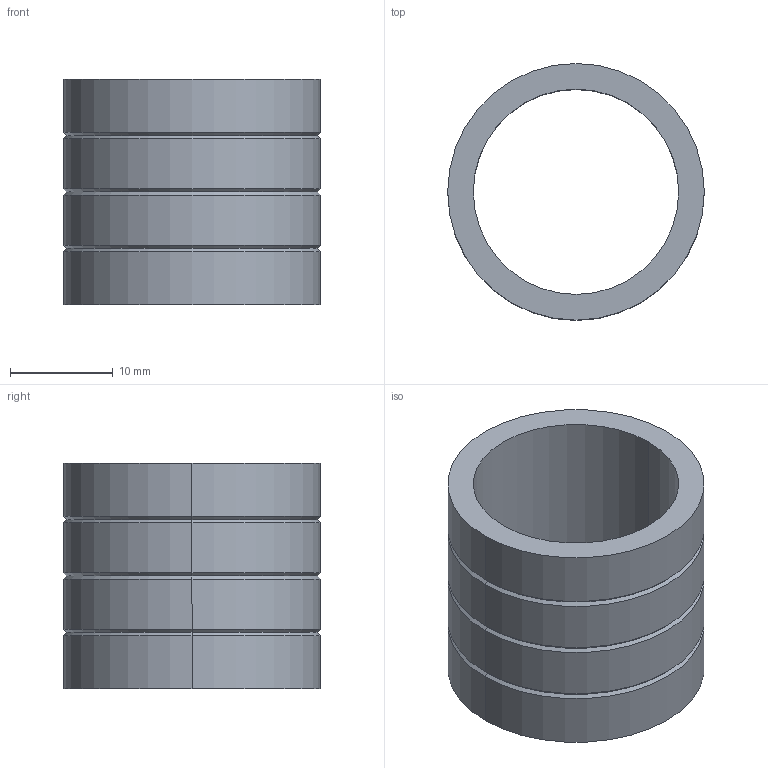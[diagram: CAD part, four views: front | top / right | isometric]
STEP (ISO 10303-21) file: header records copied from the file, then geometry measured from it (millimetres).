
FILE_DESCRIPTION(/* description */ (''),/* implementation_level */ '2;1');
FILE_NAME(/* name */ '3d_sgbl20-22_00008_r00.stp',/* time_stamp */ '2011-01-10T14:11:12+09:00',/* author */ ('MISUMI'),/* organization */ (''),/* preprocessor_version */ 'ST-DEVELOPER v11',/* originating_system */ 'UGS - NX 5.0',/* authorisation */ '');
FILE_SCHEMA (('CONFIG_CONTROL_DESIGN'));
Length unit declared in the file: millimetre
Products named in the file (1): 3d_sgbl20-22_00008_r00
Bounding box: 25 x 25 x 22 mm (x, y, z)
Volume: 3866.7 mm3; surface area: 3519.8 mm2
Topology: 1 solids, 1 shells, 24 faces, 48 edges, 26 vertices
Faces by surface type: cone 12, cylinder 10, plane 2
Entity records: 704 total; most frequent: DIRECTION 124, CARTESIAN_POINT 99, ORIENTED_EDGE 96, AXIS2_PLACEMENT_3D 51, EDGE_CURVE 48, EDGE_LOOP 26, VERTEX_POINT 26, CIRCLE 26
